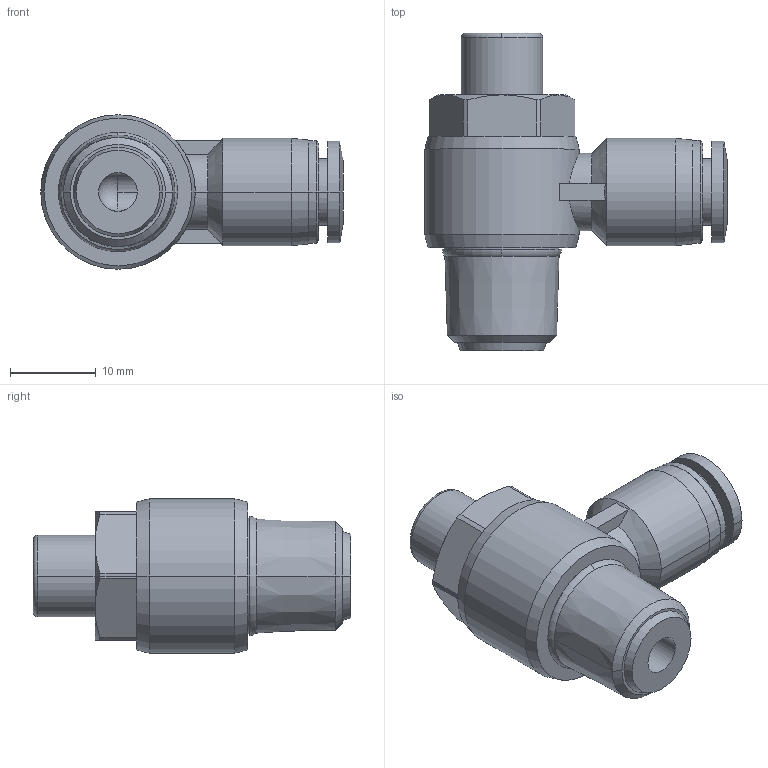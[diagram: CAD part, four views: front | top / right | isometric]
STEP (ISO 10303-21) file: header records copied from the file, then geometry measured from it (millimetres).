
FILE_DESCRIPTION (( 'STEP AP203' ), '1' );
FILE_NAME ('SCLF06-02.STEP', '2020-05-13T17:29:23', ( '' ), ( '' ), 'SwSTEP 2.0', 'SolidWorks 2019', '' );
FILE_SCHEMA (( 'CONFIG_CONTROL_DESIGN' ));
Length unit declared in the file: millimetre
Products named in the file (1): SCLF06-02
Bounding box: 35.25 x 37 x 18 mm (x, y, z)
Volume: 7097.9 mm3; surface area: 3932.3 mm2
Topology: 1 solids, 1 shells, 122 faces, 296 edges, 184 vertices
Faces by surface type: plane 45, cylinder 38, cone 32, torus 4, bspline 2, sphere 1
Entity records: 3922 total; most frequent: CARTESIAN_POINT 988, DIRECTION 633, ORIENTED_EDGE 586, EDGE_CURVE 293, AXIS2_PLACEMENT_3D 253, VERTEX_POINT 184, EDGE_LOOP 135, CIRCLE 132
